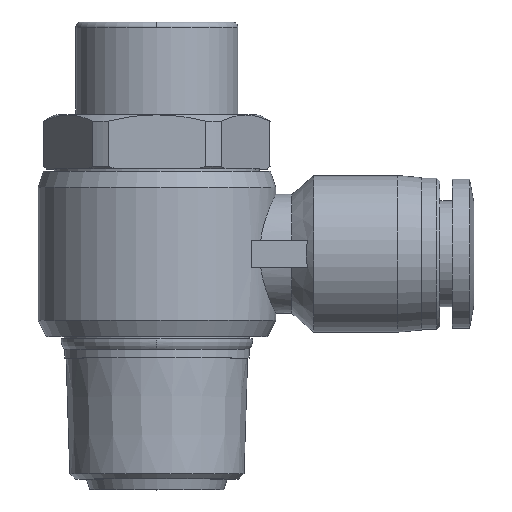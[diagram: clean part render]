
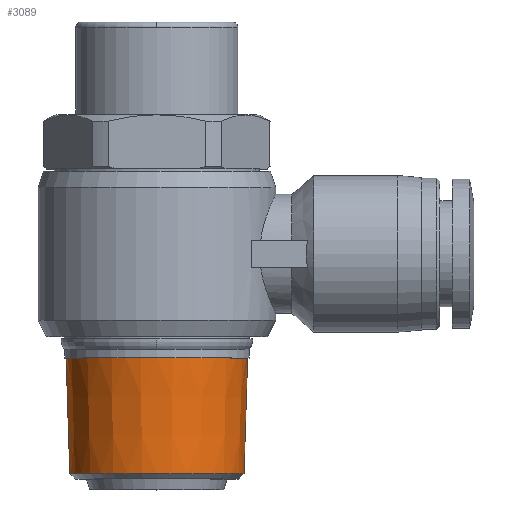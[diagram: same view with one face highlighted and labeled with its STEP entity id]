
A CAD part, top view. The second image highlights one B-rep face of the part: STEP entity #3089.
In plain terms, the highlighted conical face has half-angle 1.79 degrees and reference radius 8.233 mm.
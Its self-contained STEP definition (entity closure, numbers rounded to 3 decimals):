
#9 = DIRECTION ( 'NONE',  ( -0.031, 1., 0. ) ) ;
#11 = CONICAL_SURFACE ( 'NONE', #3023, 8.233, 0.031 ) ;
#132 = DIRECTION ( 'NONE',  ( 0., 1., 0. ) ) ;
#187 = DIRECTION ( 'NONE',  ( -1., 0., 0. ) ) ;
#221 = EDGE_LOOP ( 'NONE', ( #4059, #3121, #2590, #3380 ) ) ;
#393 = CIRCLE ( 'NONE', #1030, 8.066 ) ;
#521 = DIRECTION ( 'NONE',  ( 0., 1., 0. ) ) ;
#531 = DIRECTION ( 'NONE',  ( -1., 0., 0. ) ) ;
#601 = VECTOR ( 'NONE', #3755, 1000. ) ;
#811 = VERTEX_POINT ( 'NONE', #3017 ) ;
#855 = EDGE_CURVE ( 'NONE', #2647, #2624, #4048, .T. ) ;
#862 = CARTESIAN_POINT ( 'NONE',  ( 0., 1.5, 0. ) ) ;
#928 = VERTEX_POINT ( 'NONE', #2556 ) ;
#936 = AXIS2_PLACEMENT_3D ( 'NONE', #1064, #3098, #4027 ) ;
#991 = EDGE_CURVE ( 'NONE', #811, #2647, #393, .T. ) ;
#1030 = AXIS2_PLACEMENT_3D ( 'NONE', #862, #132, #531 ) ;
#1064 = CARTESIAN_POINT ( 'NONE',  ( 0., 12.2, 0. ) ) ;
#1178 = EDGE_CURVE ( 'NONE', #811, #928, #1321, .T. ) ;
#1321 = LINE ( 'NONE', #2928, #1892 ) ;
#1505 = CARTESIAN_POINT ( 'NONE',  ( 0., 6.85, 0. ) ) ;
#1892 = VECTOR ( 'NONE', #9, 1000. ) ;
#2142 = CARTESIAN_POINT ( 'NONE',  ( 8.066, 1.5, 0. ) ) ;
#2556 = CARTESIAN_POINT ( 'NONE',  ( -8.4, 12.2, 0. ) ) ;
#2590 = ORIENTED_EDGE ( 'NONE', *, *, #3762, .F. ) ;
#2624 = VERTEX_POINT ( 'NONE', #2794 ) ;
#2647 = VERTEX_POINT ( 'NONE', #2142 ) ;
#2794 = CARTESIAN_POINT ( 'NONE',  ( 8.4, 12.2, 0. ) ) ;
#2928 = CARTESIAN_POINT ( 'NONE',  ( -8.233, 6.85, 0. ) ) ;
#3017 = CARTESIAN_POINT ( 'NONE',  ( -8.066, 1.5, 0. ) ) ;
#3023 = AXIS2_PLACEMENT_3D ( 'NONE', #1505, #521, #187 ) ;
#3089 = ADVANCED_FACE ( 'NONE', ( #3191 ), #11, .T. ) ;
#3098 = DIRECTION ( 'NONE',  ( 0., 1., 0. ) ) ;
#3121 = ORIENTED_EDGE ( 'NONE', *, *, #855, .T. ) ;
#3191 = FACE_OUTER_BOUND ( 'NONE', #221, .T. ) ;
#3380 = ORIENTED_EDGE ( 'NONE', *, *, #1178, .F. ) ;
#3596 = CIRCLE ( 'NONE', #936, 8.4 ) ;
#3755 = DIRECTION ( 'NONE',  ( 0.031, 1., 0. ) ) ;
#3762 = EDGE_CURVE ( 'NONE', #928, #2624, #3596, .T. ) ;
#4027 = DIRECTION ( 'NONE',  ( -1., 0., 0. ) ) ;
#4048 = LINE ( 'NONE', #4069, #601 ) ;
#4059 = ORIENTED_EDGE ( 'NONE', *, *, #991, .T. ) ;
#4069 = CARTESIAN_POINT ( 'NONE',  ( 8.233, 6.85, 0. ) ) ;
